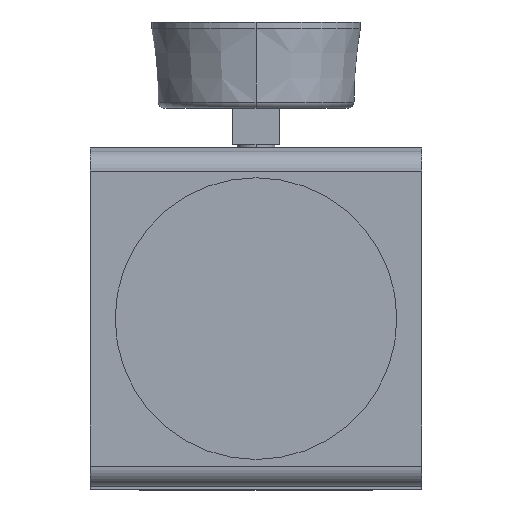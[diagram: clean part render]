
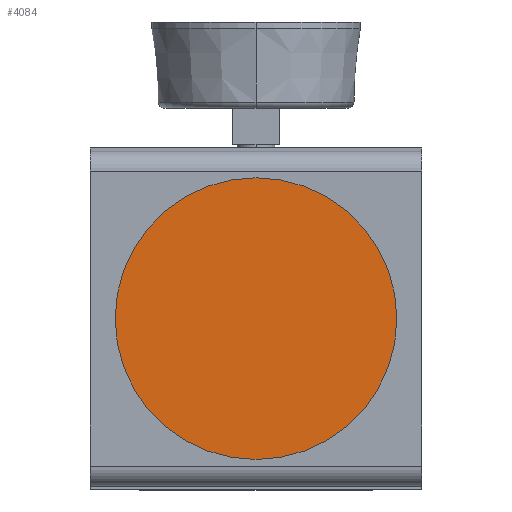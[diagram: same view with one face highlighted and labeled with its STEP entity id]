
A CAD part, front view. The second image highlights one B-rep face of the part: STEP entity #4084.
In plain terms, the highlighted planar face has unit normal (0, -1, 0).
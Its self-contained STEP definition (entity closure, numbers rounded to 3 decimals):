
#1244=CARTESIAN_POINT('',(0.,-51.5,0.));
#1245=DIRECTION('',(0.,-1.,0.));
#1246=DIRECTION('',(1.,0.,0.));
#1247=AXIS2_PLACEMENT_3D('',#1244,#1245,#1246);
#1253=CARTESIAN_POINT('',(0.,-51.5,0.));
#1254=DIRECTION('',(0.,1.,0.));
#1255=DIRECTION('',(1.,0.,0.));
#1256=AXIS2_PLACEMENT_3D('',#1253,#1254,#1255);
#2283=CARTESIAN_POINT('',(42.5,-51.5,0.));
#2284=CARTESIAN_POINT('',(-42.5,-51.5,0.));
#2285=VERTEX_POINT('',#2283);
#2286=VERTEX_POINT('',#2284);
#4075=CARTESIAN_POINT('',(0.,-51.5,0.));
#4076=DIRECTION('',(0.,-1.,0.));
#4077=DIRECTION('',(-1.,0.,0.));
#4078=AXIS2_PLACEMENT_3D('',#4075,#4076,#4077);
#4079=PLANE('',#4078);
#4080=ORIENTED_EDGE('',*,*,#4069,.T.);
#4081=ORIENTED_EDGE('',*,*,#4055,.F.);
#4082=EDGE_LOOP('',(#4080,#4081));
#4083=FACE_OUTER_BOUND('',#4082,.F.);
#4084=ADVANCED_FACE('',(#4083),#4079,.T.);
#1248=CIRCLE('',#1247,42.5);
#1257=CIRCLE('',#1256,42.5);
#4055=EDGE_CURVE('',#2285,#2286,#1248,.T.);
#4069=EDGE_CURVE('',#2285,#2286,#1257,.T.);
